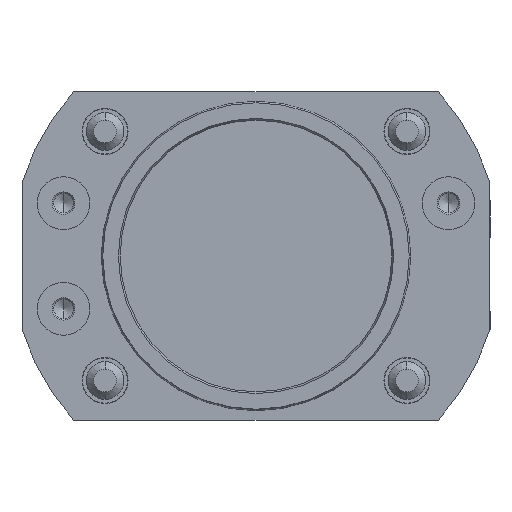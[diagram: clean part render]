
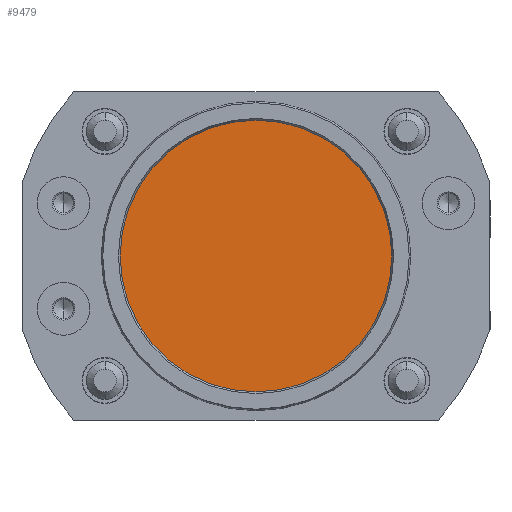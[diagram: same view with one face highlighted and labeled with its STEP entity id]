
A CAD part, front view. The second image highlights one B-rep face of the part: STEP entity #9479.
In plain terms, the highlighted planar face has unit normal (0, -1, 0).
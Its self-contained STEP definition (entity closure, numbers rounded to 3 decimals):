
#5282 = CARTESIAN_POINT ( 'NONE',  ( 0., 3., -18. ) ) ;
#5373 = AXIS2_PLACEMENT_3D ( 'NONE', #5396, #5402, #5389 ) ;
#5380 = CARTESIAN_POINT ( 'NONE',  ( 0., 3., 18. ) ) ;
#5389 = DIRECTION ( 'NONE',  ( 0., 0., 1. ) ) ;
#5396 = CARTESIAN_POINT ( 'NONE',  ( 0., 3., 0. ) ) ;
#5400 = CIRCLE ( 'NONE', #5373, 18. ) ;
#5402 = DIRECTION ( 'NONE',  ( 0., 1., 0. ) ) ;
#6374 = CARTESIAN_POINT ( 'NONE',  ( 0., 3., 0. ) ) ;
#6404 = DIRECTION ( 'NONE',  ( 0., 0., -1. ) ) ;
#6405 = DIRECTION ( 'NONE',  ( 0., -1., 0. ) ) ;
#6406 = AXIS2_PLACEMENT_3D ( 'NONE', #6374, #6466, #6465 ) ;
#6407 = CIRCLE ( 'NONE', #6406, 18. ) ;
#6413 = CARTESIAN_POINT ( 'NONE',  ( 0., 3., 0. ) ) ;
#6415 = PLANE ( 'NONE',  #6417 ) ;
#6416 = FACE_OUTER_BOUND ( 'NONE', #9186, .T. ) ;
#6417 = AXIS2_PLACEMENT_3D ( 'NONE', #6413, #6405, #6404 ) ;
#6465 = DIRECTION ( 'NONE',  ( 0., 0., 1. ) ) ;
#6466 = DIRECTION ( 'NONE',  ( 0., 1., 0. ) ) ;
#8937 = VERTEX_POINT ( 'NONE', #5282 ) ;
#8992 = EDGE_CURVE ( 'NONE', #8937, #8999, #5400, .T. ) ;
#8999 = VERTEX_POINT ( 'NONE', #5380 ) ;
#9160 = ORIENTED_EDGE ( 'NONE', *, *, #9480, .F. ) ;
#9186 = EDGE_LOOP ( 'NONE', ( #9160, #9481 ) ) ;
#9479 = ADVANCED_FACE ( 'NONE', ( #6416 ), #6415, .T. ) ;
#9480 = EDGE_CURVE ( 'NONE', #8999, #8937, #6407, .T. ) ;
#9481 = ORIENTED_EDGE ( 'NONE', *, *, #8992, .F. ) ;
